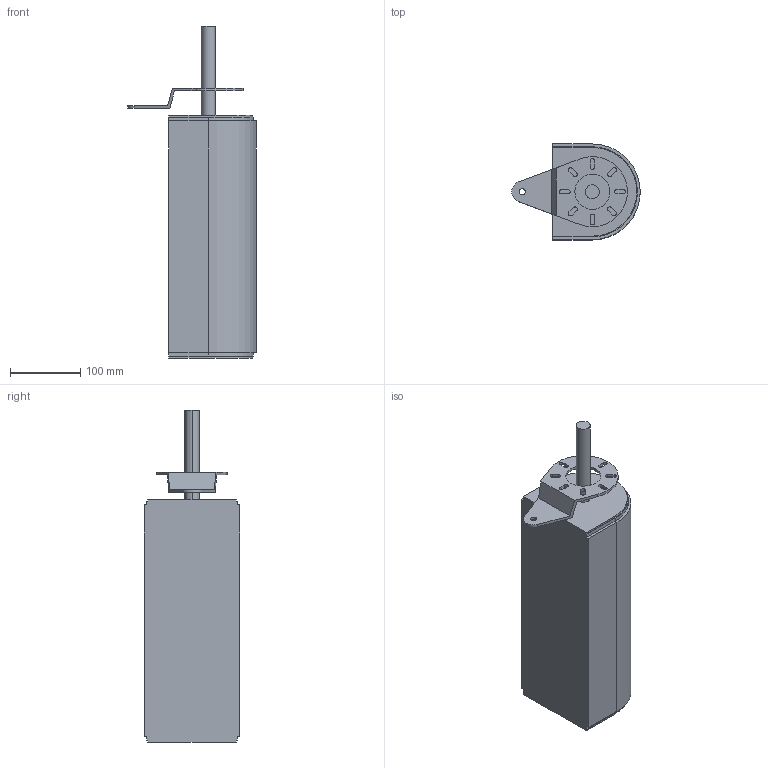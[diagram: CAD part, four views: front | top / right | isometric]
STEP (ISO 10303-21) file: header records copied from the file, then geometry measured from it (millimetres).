
FILE_DESCRIPTION (( 'STEP AP214' ), '1' );
FILE_NAME ('FS-MTC2-150-INOX Aandrijving & omloop.350 aandr rechts ra.STEP', '2017-02-08T12:38:36', ( '' ), ( '' ), 'SwSTEP 2.0', 'SolidWorks 2016', '' );
FILE_SCHEMA (( 'AUTOMOTIVE_DESIGN' ));
Length unit declared in the file: millimetre
Products named in the file (1): FS-MTC2-150-INOX Aandrijving & omloop.350 aandr rechts ra
Bounding box: 183.25 x 136.5 x 473.5 mm (x, y, z)
Volume: 5268960.5 mm3; surface area: 221718.3 mm2
Topology: 2 solids, 2 shells, 78 faces, 219 edges, 146 vertices
Faces by surface type: plane 42, cylinder 36
Entity records: 2618 total; most frequent: DIRECTION 449, CARTESIAN_POINT 444, ORIENTED_EDGE 438, EDGE_CURVE 219, AXIS2_PLACEMENT_3D 151, VECTOR 147, LINE 147, VERTEX_POINT 146
